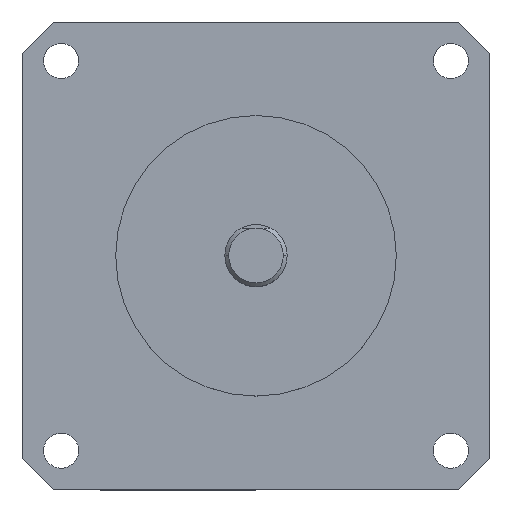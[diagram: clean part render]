
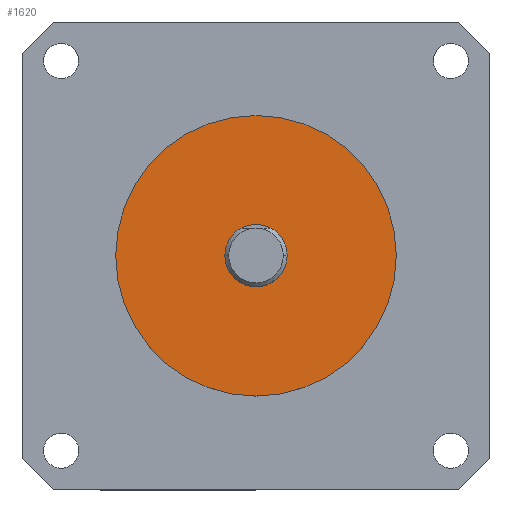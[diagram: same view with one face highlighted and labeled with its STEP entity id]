
A CAD part, top view. The second image highlights one B-rep face of the part: STEP entity #1620.
In plain terms, the highlighted planar face has unit normal (0, 0, 1).
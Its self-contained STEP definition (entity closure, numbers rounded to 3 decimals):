
#200 = EDGE_LOOP ( 'NONE', ( #2630, #1815 ) ) ;
#335 = CIRCLE ( 'NONE', #756, 18. ) ;
#572 = VERTEX_POINT ( 'NONE', #3177 ) ;
#736 = ORIENTED_EDGE ( 'NONE', *, *, #4334, .T. ) ;
#742 = CIRCLE ( 'NONE', #3830, 18. ) ;
#756 = AXIS2_PLACEMENT_3D ( 'NONE', #2380, #4110, #3747 ) ;
#968 = CARTESIAN_POINT ( 'NONE',  ( 0., 0., 1.6 ) ) ;
#1029 = PLANE ( 'NONE',  #3601 ) ;
#1143 = EDGE_CURVE ( 'NONE', #3470, #4032, #335, .T. ) ;
#1148 = VERTEX_POINT ( 'NONE', #3059 ) ;
#1241 = CARTESIAN_POINT ( 'NONE',  ( 0., 0., 1.6 ) ) ;
#1244 = CARTESIAN_POINT ( 'NONE',  ( 18., 0., 1.6 ) ) ;
#1279 = EDGE_LOOP ( 'NONE', ( #1534, #736 ) ) ;
#1284 = AXIS2_PLACEMENT_3D ( 'NONE', #1241, #3663, #1589 ) ;
#1306 = DIRECTION ( 'NONE',  ( 1., 0., 0. ) ) ;
#1366 = DIRECTION ( 'NONE',  ( 1., 0., 0. ) ) ;
#1462 = CIRCLE ( 'NONE', #1284, 4. ) ;
#1534 = ORIENTED_EDGE ( 'NONE', *, *, #4091, .T. ) ;
#1589 = DIRECTION ( 'NONE',  ( 1., 0., 0. ) ) ;
#1620 = ADVANCED_FACE ( 'NONE', ( #2325, #2439 ), #1029, .T. ) ;
#1815 = ORIENTED_EDGE ( 'NONE', *, *, #1143, .T. ) ;
#2032 = CIRCLE ( 'NONE', #2591, 4. ) ;
#2060 = DIRECTION ( 'NONE',  ( 0., 0., -1. ) ) ;
#2325 = FACE_OUTER_BOUND ( 'NONE', #200, .T. ) ;
#2380 = CARTESIAN_POINT ( 'NONE',  ( 0., 0., 1.6 ) ) ;
#2406 = CARTESIAN_POINT ( 'NONE',  ( 0., 0., 1.6 ) ) ;
#2439 = FACE_BOUND ( 'NONE', #1279, .T. ) ;
#2564 = CARTESIAN_POINT ( 'NONE',  ( -18., 0., 1.6 ) ) ;
#2591 = AXIS2_PLACEMENT_3D ( 'NONE', #4135, #2060, #4468 ) ;
#2630 = ORIENTED_EDGE ( 'NONE', *, *, #4198, .T. ) ;
#3059 = CARTESIAN_POINT ( 'NONE',  ( 4., 0., 1.6 ) ) ;
#3177 = CARTESIAN_POINT ( 'NONE',  ( -4., 0., 1.6 ) ) ;
#3380 = DIRECTION ( 'NONE',  ( 0., 0., 1. ) ) ;
#3446 = DIRECTION ( 'NONE',  ( 0., 0., 1. ) ) ;
#3470 = VERTEX_POINT ( 'NONE', #1244 ) ;
#3601 = AXIS2_PLACEMENT_3D ( 'NONE', #2406, #3446, #1366 ) ;
#3663 = DIRECTION ( 'NONE',  ( 0., 0., -1. ) ) ;
#3747 = DIRECTION ( 'NONE',  ( 1., 0., 0. ) ) ;
#3830 = AXIS2_PLACEMENT_3D ( 'NONE', #968, #3380, #1306 ) ;
#4032 = VERTEX_POINT ( 'NONE', #2564 ) ;
#4091 = EDGE_CURVE ( 'NONE', #572, #1148, #1462, .T. ) ;
#4110 = DIRECTION ( 'NONE',  ( 0., 0., 1. ) ) ;
#4135 = CARTESIAN_POINT ( 'NONE',  ( 0., 0., 1.6 ) ) ;
#4198 = EDGE_CURVE ( 'NONE', #4032, #3470, #742, .T. ) ;
#4334 = EDGE_CURVE ( 'NONE', #1148, #572, #2032, .T. ) ;
#4468 = DIRECTION ( 'NONE',  ( 1., 0., 0. ) ) ;
